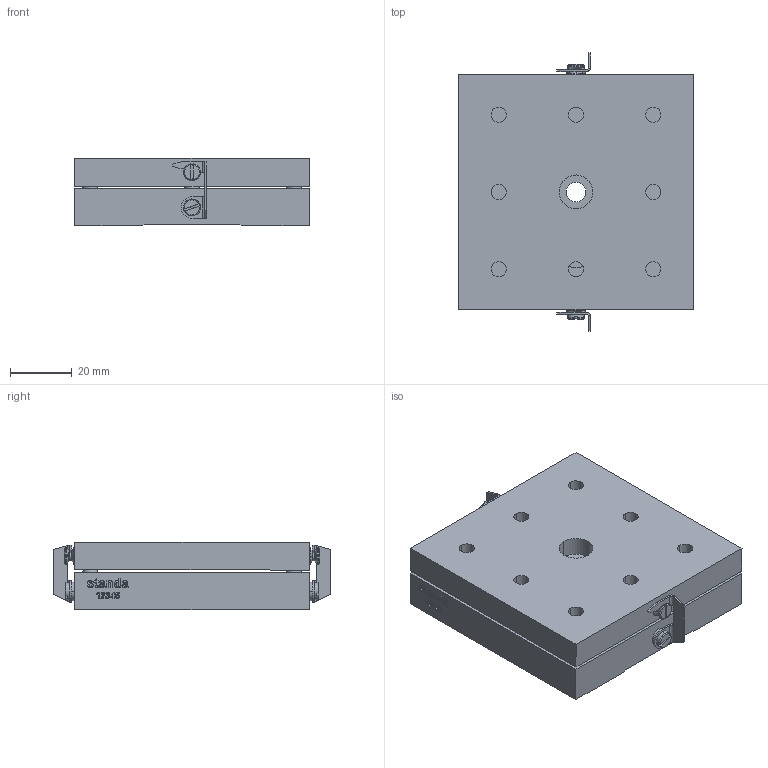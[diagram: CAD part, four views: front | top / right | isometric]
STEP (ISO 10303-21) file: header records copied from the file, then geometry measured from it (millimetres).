
FILE_DESCRIPTION (( 'STEP AP203' ), '1' );
FILE_NAME ('6KB131.STEP', '2008-09-26T15:29:53', ( 'Darius' ), ( '' ), 'SwSTEP 2.0', 'SolidWorks 2003240', '' );
FILE_SCHEMA (( 'CONFIG_CONTROL_DESIGN' ));
Length unit declared in the file: millimetre
Products named in the file (1): 6KB131
Bounding box: 76 x 90 x 22.01 mm (x, y, z)
Volume: 110338.5 mm3; surface area: 33635.8 mm2
Topology: 1 solids, 2 shells, 383 faces, 1033 edges, 682 vertices
Faces by surface type: plane 172, bspline 114, cylinder 74, cone 23
Entity records: 14633 total; most frequent: CARTESIAN_POINT 5553, ORIENTED_EDGE 2066, DIRECTION 1519, EDGE_CURVE 1033, VERTEX_POINT 682, LINE 563, VECTOR 563, AXIS2_PLACEMENT_3D 478
